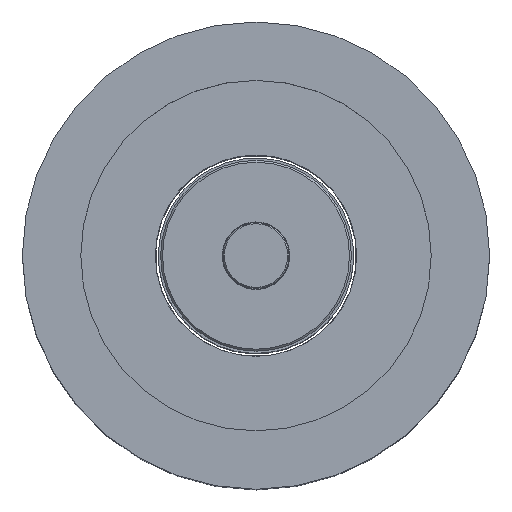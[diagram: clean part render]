
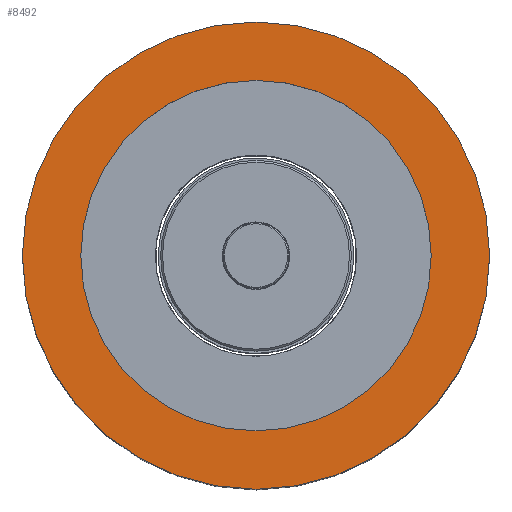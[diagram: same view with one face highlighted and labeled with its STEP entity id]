
A CAD part, top view. The second image highlights one B-rep face of the part: STEP entity #8492.
In plain terms, the highlighted planar face has unit normal (0, 0, 1).
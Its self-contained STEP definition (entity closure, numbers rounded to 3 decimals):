
#78=FACE_BOUND('',#1412,.T.);
#707=PLANE('',#8933);
#999=FACE_OUTER_BOUND('',#1411,.T.);
#1411=EDGE_LOOP('',(#6005));
#1412=EDGE_LOOP('',(#6006));
#3242=CIRCLE('',#8932,60.);
#3243=CIRCLE('',#8934,45.);
#3748=VERTEX_POINT('',#13249);
#3749=VERTEX_POINT('',#13253);
#4597=EDGE_CURVE('',#3748,#3748,#3242,.T.);
#4598=EDGE_CURVE('',#3749,#3749,#3243,.T.);
#6005=ORIENTED_EDGE('',*,*,#4597,.F.);
#6006=ORIENTED_EDGE('',*,*,#4598,.T.);
#8492=ADVANCED_FACE('',(#999,#78),#707,.T.);
#8932=AXIS2_PLACEMENT_3D('',#13251,#9824,#9825);
#8933=AXIS2_PLACEMENT_3D('',#13252,#9826,#9827);
#8934=AXIS2_PLACEMENT_3D('',#13254,#9828,#9829);
#9824=DIRECTION('center_axis',(0.,0.,-1.));
#9825=DIRECTION('ref_axis',(1.,0.,0.));
#9826=DIRECTION('center_axis',(0.,0.,1.));
#9827=DIRECTION('ref_axis',(1.,0.,0.));
#9828=DIRECTION('center_axis',(0.,0.,-1.));
#9829=DIRECTION('ref_axis',(1.,0.,0.));
#13249=CARTESIAN_POINT('',(60.,0.,66.216));
#13251=CARTESIAN_POINT('Origin',(0.,0.,66.216));
#13252=CARTESIAN_POINT('Origin',(-60.,0.,66.216));
#13253=CARTESIAN_POINT('',(45.,0.,66.216));
#13254=CARTESIAN_POINT('Origin',(0.,0.,66.216));
